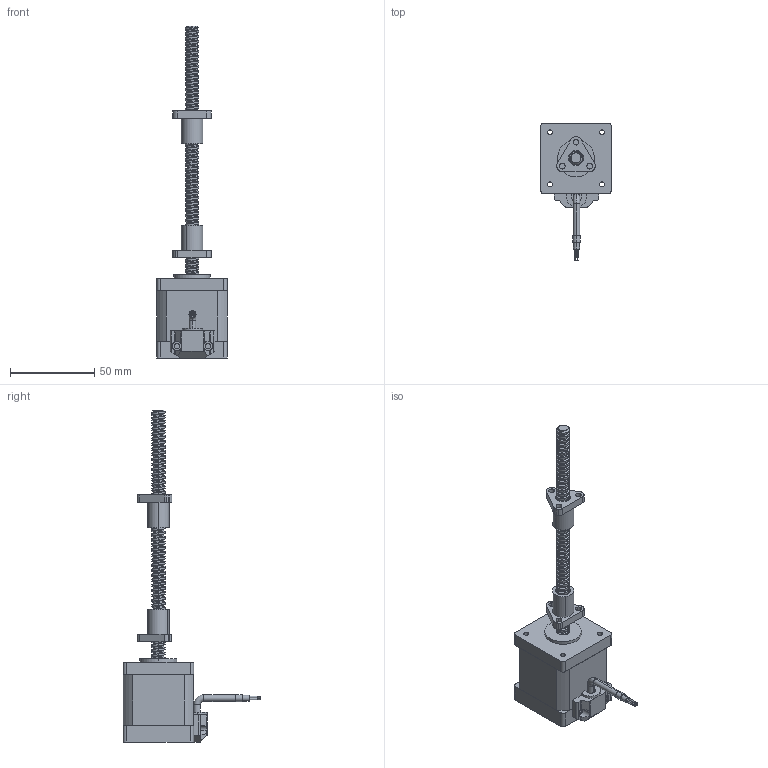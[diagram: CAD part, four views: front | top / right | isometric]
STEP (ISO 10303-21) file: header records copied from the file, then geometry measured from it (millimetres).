
FILE_DESCRIPTION (( 'STEP AP214' ), '1' );
FILE_NAME ('SPS42E248-T0802-150LR.STEP', '2024-06-26T09:26:00', ( 'MM' ), ( 'Microsoft' ), 'SwSTEP 2.0', 'SolidWorks 2024', '' );
FILE_SCHEMA (( 'AUTOMOTIVE_DESIGN' ));
Length unit declared in the file: millimetre
Products named in the file (1): SPS42E248-T0802-150LR
Bounding box: 42 x 82 x 197.6 mm (x, y, z)
Volume: 94851.7 mm3; surface area: 25528.9 mm2
Topology: 5 solids, 5 shells, 320 faces, 856 edges, 564 vertices
Faces by surface type: cylinder 226, plane 74, cone 10, torus 6, bspline 4
Entity records: 24272 total; most frequent: CARTESIAN_POINT 16436, ORIENTED_EDGE 1712, DIRECTION 1532, EDGE_CURVE 856, AXIS2_PLACEMENT_3D 584, VERTEX_POINT 564, EDGE_LOOP 382, LINE 364
